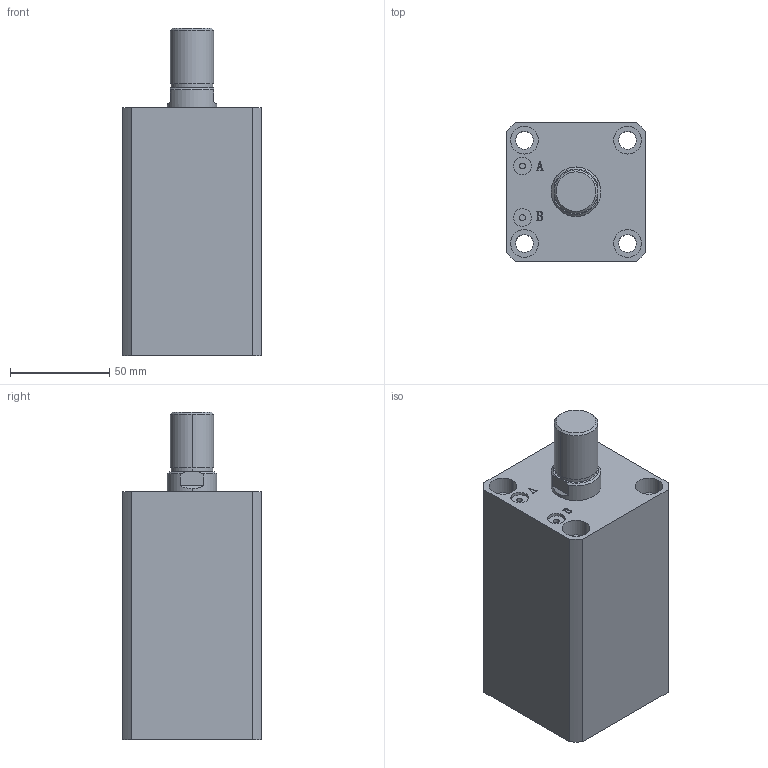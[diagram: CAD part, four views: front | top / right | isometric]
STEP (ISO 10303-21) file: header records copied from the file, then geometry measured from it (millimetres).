
FILE_DESCRIPTION (( 'STEP AP203' ), '1' );
FILE_NAME ('HTB-SDMA40-70W.STEP', '2019-10-07T11:55:58', ( '微软用户' ), ( '微软中国' ), 'SwSTEP 2.0', 'SolidWorks 2012', '' );
FILE_SCHEMA (( 'CONFIG_CONTROL_DESIGN' ));
Length unit declared in the file: millimetre
Products named in the file (3): HTB-SDMA40-70W; HTB-SDMA40-70W活塞杆; HTB-SDMA40-70掛极
Assembly tree (2 placements, depth 2):
  HTB-SDMA40-70W
    HTB-SDMA40-70掛极
    HTB-SDMA40-70W活塞杆
Bounding box: 70 x 70 x 165 mm (x, y, z)
Volume: 531523.1 mm3; surface area: 88523.5 mm2
Topology: 2 solids, 2 shells, 141 faces, 337 edges, 222 vertices
Faces by surface type: plane 67, cylinder 48, bspline 16, torus 6, cone 4
Entity records: 5180 total; most frequent: CARTESIAN_POINT 1597, ORIENTED_EDGE 674, DIRECTION 669, EDGE_CURVE 337, AXIS2_PLACEMENT_3D 242, VERTEX_POINT 222, VECTOR 185, LINE 185
